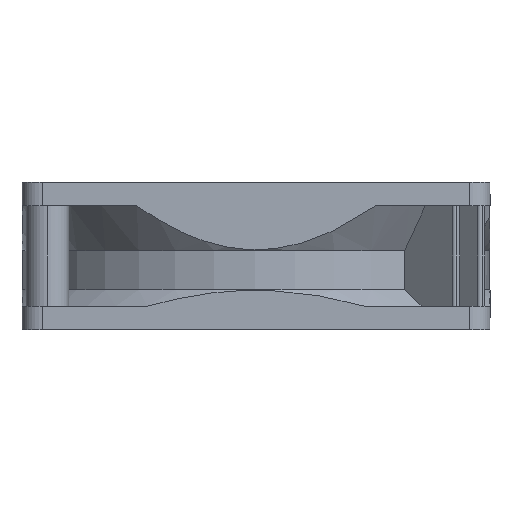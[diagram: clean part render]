
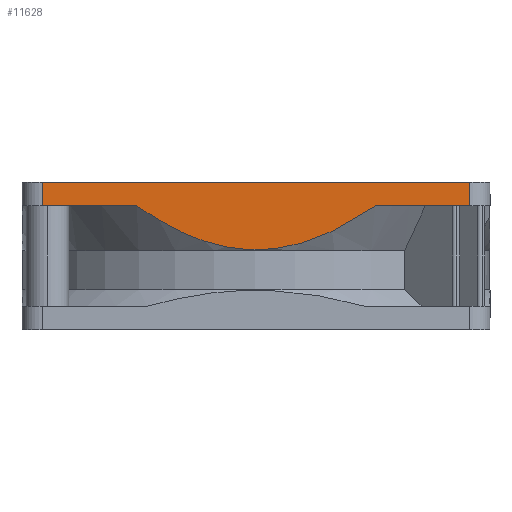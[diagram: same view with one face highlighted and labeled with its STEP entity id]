
A CAD part, front view. The second image highlights one B-rep face of the part: STEP entity #11628.
In plain terms, the highlighted planar face has unit normal (0, -1, 0).
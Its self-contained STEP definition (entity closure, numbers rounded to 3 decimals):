
#40 = CARTESIAN_POINT ( 'NONE',  ( 20.42, -40.1, -4. ) ) ;
#199 = CARTESIAN_POINT ( 'NONE',  ( -0.933, -40.1, -11.533 ) ) ;
#402 = ORIENTED_EDGE ( 'NONE', *, *, #22080, .F. ) ;
#665 = CARTESIAN_POINT ( 'NONE',  ( 6.391, -40.1, -10.782 ) ) ;
#671 = VECTOR ( 'NONE', #31658, 1000. ) ;
#840 = DIRECTION ( 'NONE',  ( 0., 0., 1. ) ) ;
#944 = CARTESIAN_POINT ( 'NONE',  ( -36.6, -40.1, 0. ) ) ;
#1726 = CARTESIAN_POINT ( 'NONE',  ( -36.6, -40.1, -4. ) ) ;
#3039 = VERTEX_POINT ( 'NONE', #26841 ) ;
#3081 = CARTESIAN_POINT ( 'NONE',  ( -7.295, -40.1, -10.547 ) ) ;
#3420 = CARTESIAN_POINT ( 'NONE',  ( 36.6, -40.1, -25.2 ) ) ;
#3741 = CARTESIAN_POINT ( 'NONE',  ( -36.6, -40.1, -4. ) ) ;
#3960 = VERTEX_POINT ( 'NONE', #28336 ) ;
#5525 = CARTESIAN_POINT ( 'NONE',  ( -3.696, -40.1, -11.3 ) ) ;
#5645 = LINE ( 'NONE', #944, #12550 ) ;
#7042 = LINE ( 'NONE', #14497, #28513 ) ;
#7206 = DIRECTION ( 'NONE',  ( 0., 0., 1. ) ) ;
#7317 = CARTESIAN_POINT ( 'NONE',  ( -12.52, -40.1, -8.656 ) ) ;
#7635 = CARTESIAN_POINT ( 'NONE',  ( -14.169, -40.1, -7.845 ) ) ;
#7795 = VECTOR ( 'NONE', #19562, 1000. ) ;
#7955 = CARTESIAN_POINT ( 'NONE',  ( -0.467, -40.1, -11.546 ) ) ;
#9379 = ORIENTED_EDGE ( 'NONE', *, *, #17130, .F. ) ;
#9626 = EDGE_LOOP ( 'NONE', ( #402, #26173, #9379, #26615, #31337, #15961 ) ) ;
#9628 = CARTESIAN_POINT ( 'NONE',  ( -36.6, -40.1, -4. ) ) ;
#9869 = CARTESIAN_POINT ( 'NONE',  ( 36.6, -40.1, -4. ) ) ;
#9904 = CARTESIAN_POINT ( 'NONE',  ( 14.156, -40.1, -7.851 ) ) ;
#10369 = CARTESIAN_POINT ( 'NONE',  ( -36.6, -40.1, -25.2 ) ) ;
#10380 = CARTESIAN_POINT ( 'NONE',  ( 17.355, -40.1, -6.05 ) ) ;
#10909 = B_SPLINE_CURVE_WITH_KNOTS ( 'NONE', 3,
 ( #40, #12498, #10380, #9904, #20117, #22522, #14941, #20267, #17696, #30139, #665, #15414, #29509, #7955, #199, #27702, #19956, #5525, #24632, #25261, #3081, #22836, #29835, #7317, #7635, #17212, #14768, #27065 ),
 .UNSPECIFIED., .F., .F.,
 ( 4, 2, 2, 2, 2, 2, 2, 2, 2, 2, 2, 2, 2, 4 ),
 ( 0.06, 0.066, 0.071, 0.072, 0.074, 0.077, 0.082, 0.083, 0.085, 0.087, 0.09, 0.093, 0.098, 0.104 ),
 .UNSPECIFIED. ) ;
#11384 = VERTEX_POINT ( 'NONE', #3741 ) ;
#11628 = ADVANCED_FACE ( 'NONE', ( #22827 ), #15553, .T. ) ;
#12498 = CARTESIAN_POINT ( 'NONE',  ( 18.906, -40.1, -5.058 ) ) ;
#12550 = VECTOR ( 'NONE', #15526, 1000. ) ;
#13020 = CARTESIAN_POINT ( 'NONE',  ( 36.6, -40.1, 0. ) ) ;
#14061 = EDGE_CURVE ( 'NONE', #3960, #11384, #14532, .T. ) ;
#14497 = CARTESIAN_POINT ( 'NONE',  ( -36.6, -40.1, -25.2 ) ) ;
#14532 = LINE ( 'NONE', #1726, #7795 ) ;
#14637 = EDGE_CURVE ( 'NONE', #11384, #3039, #7042, .T. ) ;
#14768 = CARTESIAN_POINT ( 'NONE',  ( -18.911, -40.1, -5.055 ) ) ;
#14810 = LINE ( 'NONE', #9628, #671 ) ;
#14941 = CARTESIAN_POINT ( 'NONE',  ( 9.931, -40.1, -9.684 ) ) ;
#15414 = CARTESIAN_POINT ( 'NONE',  ( 3.69, -40.1, -11.346 ) ) ;
#15526 = DIRECTION ( 'NONE',  ( 1., 0., 0. ) ) ;
#15553 = PLANE ( 'NONE',  #27308 ) ;
#15961 = ORIENTED_EDGE ( 'NONE', *, *, #21170, .F. ) ;
#17130 = EDGE_CURVE ( 'NONE', #3039, #19431, #5645, .T. ) ;
#17212 = CARTESIAN_POINT ( 'NONE',  ( -17.364, -40.1, -6.044 ) ) ;
#17522 = CARTESIAN_POINT ( 'NONE',  ( 20.42, -40.1, -4. ) ) ;
#17684 = DIRECTION ( 'NONE',  ( 0., 0., -1. ) ) ;
#17696 = CARTESIAN_POINT ( 'NONE',  ( 8.613, -40.1, -10.141 ) ) ;
#17882 = VERTEX_POINT ( 'NONE', #9869 ) ;
#19431 = VERTEX_POINT ( 'NONE', #13020 ) ;
#19562 = DIRECTION ( 'NONE',  ( -1., 0., 0. ) ) ;
#19723 = VERTEX_POINT ( 'NONE', #17522 ) ;
#19956 = CARTESIAN_POINT ( 'NONE',  ( -2.32, -40.1, -11.447 ) ) ;
#19973 = VECTOR ( 'NONE', #840, 1000. ) ;
#20117 = CARTESIAN_POINT ( 'NONE',  ( 12.508, -40.1, -8.662 ) ) ;
#20267 = CARTESIAN_POINT ( 'NONE',  ( 9.056, -40.1, -9.994 ) ) ;
#20575 = DIRECTION ( 'NONE',  ( 0., -1., 0. ) ) ;
#21170 = EDGE_CURVE ( 'NONE', #19723, #3960, #10909, .T. ) ;
#22080 = EDGE_CURVE ( 'NONE', #17882, #19723, #14810, .T. ) ;
#22522 = CARTESIAN_POINT ( 'NONE',  ( 10.364, -40.1, -9.52 ) ) ;
#22827 = FACE_OUTER_BOUND ( 'NONE', #9626, .T. ) ;
#22836 = CARTESIAN_POINT ( 'NONE',  ( -9.063, -40.1, -10.002 ) ) ;
#24632 = CARTESIAN_POINT ( 'NONE',  ( -4.604, -40.1, -11.156 ) ) ;
#25261 = CARTESIAN_POINT ( 'NONE',  ( -6.403, -40.1, -10.779 ) ) ;
#26173 = ORIENTED_EDGE ( 'NONE', *, *, #27682, .T. ) ;
#26615 = ORIENTED_EDGE ( 'NONE', *, *, #14637, .F. ) ;
#26841 = CARTESIAN_POINT ( 'NONE',  ( -36.6, -40.1, 0. ) ) ;
#27065 = CARTESIAN_POINT ( 'NONE',  ( -20.42, -40.1, -4. ) ) ;
#27308 = AXIS2_PLACEMENT_3D ( 'NONE', #10369, #20575, #17684 ) ;
#27682 = EDGE_CURVE ( 'NONE', #17882, #19431, #28197, .T. ) ;
#27702 = CARTESIAN_POINT ( 'NONE',  ( -1.859, -40.1, -11.484 ) ) ;
#28197 = LINE ( 'NONE', #3420, #19973 ) ;
#28336 = CARTESIAN_POINT ( 'NONE',  ( -20.42, -40.1, -4. ) ) ;
#28513 = VECTOR ( 'NONE', #7206, 1000. ) ;
#29509 = CARTESIAN_POINT ( 'NONE',  ( 1.861, -40.1, -11.546 ) ) ;
#29835 = CARTESIAN_POINT ( 'NONE',  ( -9.943, -40.1, -9.689 ) ) ;
#30139 = CARTESIAN_POINT ( 'NONE',  ( 7.284, -40.1, -10.55 ) ) ;
#31337 = ORIENTED_EDGE ( 'NONE', *, *, #14061, .F. ) ;
#31658 = DIRECTION ( 'NONE',  ( -1., 0., 0. ) ) ;
